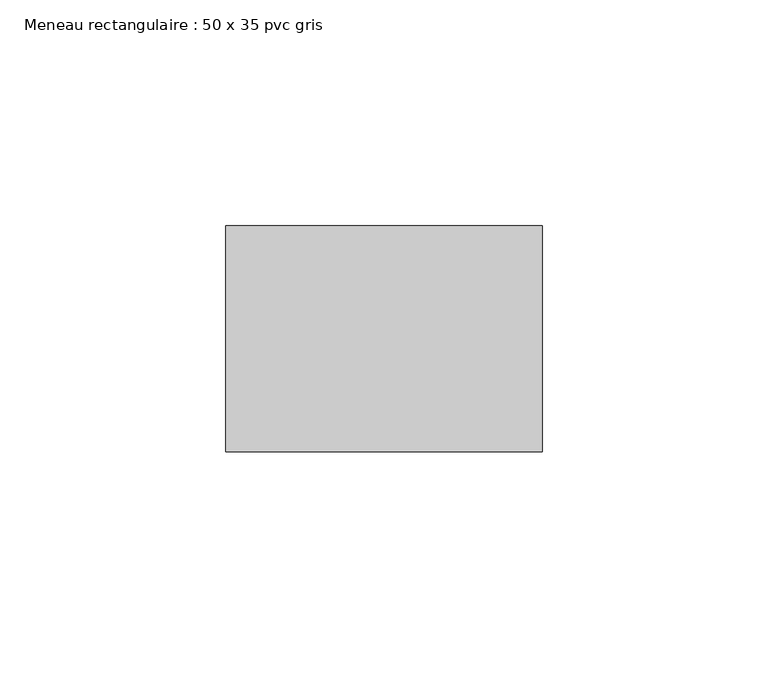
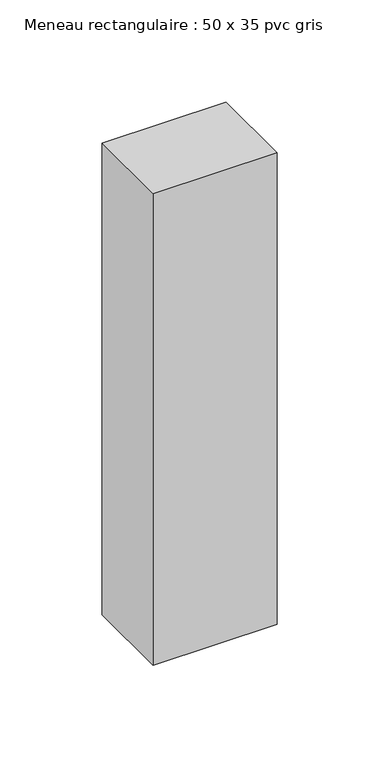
"""IFC4 building model written with IfcOpenShell, lengths in millimetres: member geometry, Meneau rectangulaire : 50 x 35 pvc gris."""

from ifc_helpers import new_model, si_unit, frame, origin, place, context, project, spatial, polyline, outline, extrude, source, transform, mapped, element, save


def meneau_rectangulaire_50_x_35_pvc_gris_aee66033(model_context):
    return source(origin(), model_context, "Body", "SweptSolid", [
        extrude(outline(polyline([(0.0, 0.0), (0.0, -50.0), (-70.0, -50.0), (-70.0, 0.0), (0.0, 0.0)])), frame((0.0, 0.0, -282.0), z_axis=(0.0, 0.0, 1.0), x_axis=(1.0, 0.0, 0.0)), (0.0, 0.0, 1.0), 282.0),
    ])


if __name__ == "__main__":
    model = new_model("IFC4")
    model_context = context("Model", 3, world=origin())
    ifc_project = project(units=[si_unit("LENGTHUNIT", "METRE", prefix="MILLI")], contexts=[model_context])
    site = spatial("IfcSite", under=ifc_project)
    building = spatial("IfcBuilding", under=site)
    placement = place(None, origin())
    meneau_rectangulaire_50_x_35_pvc_gris_shape = meneau_rectangulaire_50_x_35_pvc_gris_aee66033(model_context)
    element("IfcMember", 1, ObjectType="Meneau rectangulaire : 50 x 35 pvc gris", at=placement, inside=building, context=model_context, shape_type="MappedRepresentation", body=[
        mapped(meneau_rectangulaire_50_x_35_pvc_gris_shape, transform((0.0, 0.0, 0.0), x_axis=(1.0, 0.0, 0.0), y_axis=(0.0, 1.0, 0.0), z_axis=(0.0, 0.0, 1.0))),
    ])
    save(model, "model.ifc")
